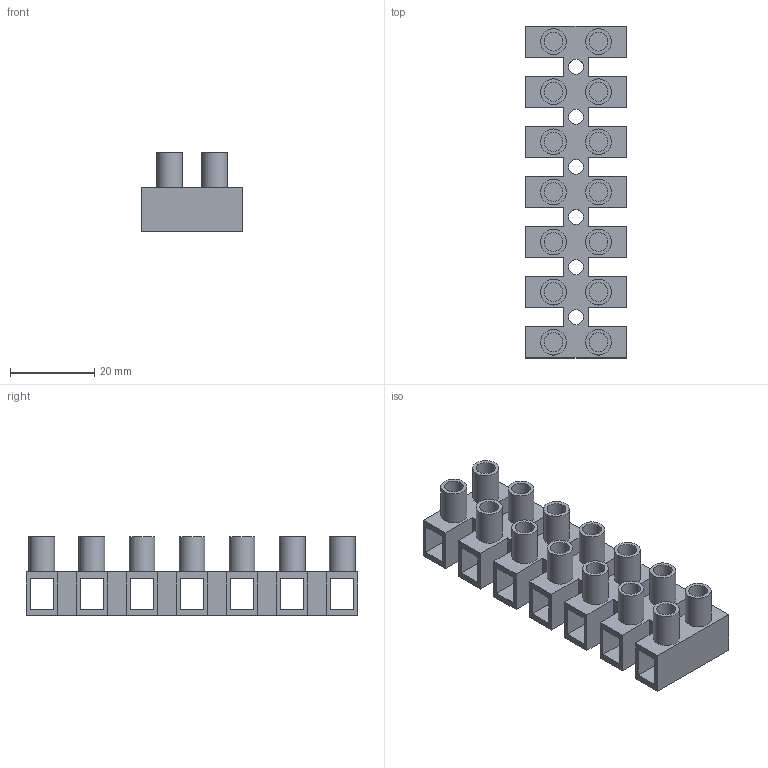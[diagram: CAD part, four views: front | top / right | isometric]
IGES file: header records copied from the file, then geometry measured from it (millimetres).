
Global section: file name: No Iges File Name specified; native system: AutoDesk Inventor R6.0; preprocessor: AutoDesk Inventor Iges Exporter R6.0; author: No Author specified; organization: No Organization specified; date: 20080104.193748; units: inch
Bounding box: 23.94 x 78.85 x 18.75 mm (x, y, z)
Surface area: 15437.7 mm2 (no closed solid volume)
Topology: 0 solids, 0 shells, 144 faces, 650 edges, 616 vertices
Faces by surface type: plane 110, revolution 34
